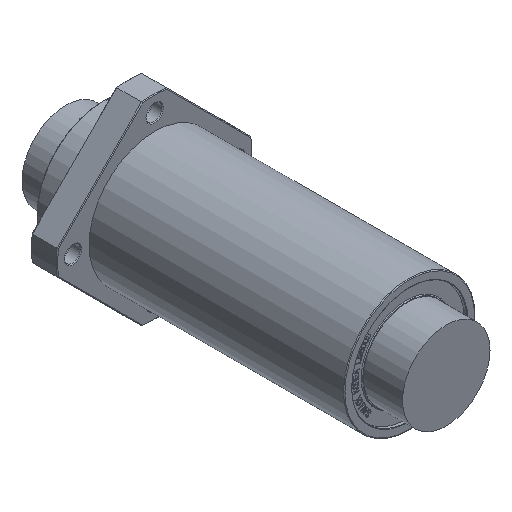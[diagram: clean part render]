
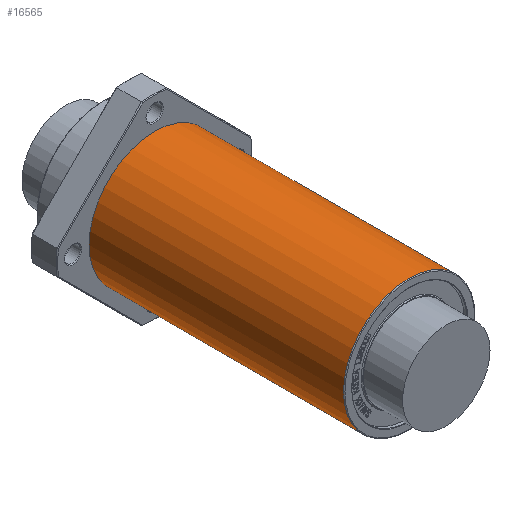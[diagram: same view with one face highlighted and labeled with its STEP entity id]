
A CAD part, isometric view. The second image highlights one B-rep face of the part: STEP entity #16565.
In plain terms, the highlighted cylindrical face has radius 45 mm (diameter 90 mm), a full revolution.
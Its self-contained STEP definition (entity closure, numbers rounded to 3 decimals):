
#2247=CYLINDRICAL_SURFACE('',#16937,45.);
#3415=FACE_OUTER_BOUND('',#4353,.T.);
#4353=EDGE_LOOP('',(#15631,#15632,#15633,#15634,#15635,#15636,#15637));
#5495=LINE('',#29887,#6631);
#6631=VECTOR('',#18785,45.);
#6657=CIRCLE('',#16620,45.);
#6658=CIRCLE('',#16621,45.);
#6713=CIRCLE('',#16938,45.);
#6714=CIRCLE('',#16939,45.);
#6715=CIRCLE('',#16940,45.);
#6755=VERTEX_POINT('',#18892);
#6756=VERTEX_POINT('',#18893);
#8342=VERTEX_POINT('',#29882);
#8343=VERTEX_POINT('',#29883);
#8344=VERTEX_POINT('',#29885);
#8386=EDGE_CURVE('',#6755,#6756,#6657,.T.);
#8387=EDGE_CURVE('',#6756,#6755,#6658,.T.);
#10779=EDGE_CURVE('',#8342,#8343,#6713,.T.);
#10780=EDGE_CURVE('',#8344,#8342,#6714,.T.);
#10781=EDGE_CURVE('',#8344,#6756,#5495,.T.);
#10782=EDGE_CURVE('',#8343,#8344,#6715,.T.);
#15631=ORIENTED_EDGE('',*,*,#10779,.F.);
#15632=ORIENTED_EDGE('',*,*,#10780,.F.);
#15633=ORIENTED_EDGE('',*,*,#10781,.T.);
#15634=ORIENTED_EDGE('',*,*,#8387,.T.);
#15635=ORIENTED_EDGE('',*,*,#8386,.T.);
#15636=ORIENTED_EDGE('',*,*,#10781,.F.);
#15637=ORIENTED_EDGE('',*,*,#10782,.F.);
#16565=ADVANCED_FACE('',(#3415),#2247,.T.);
#16620=AXIS2_PLACEMENT_3D('',#18894,#17024,#17025);
#16621=AXIS2_PLACEMENT_3D('',#18895,#17026,#17027);
#16937=AXIS2_PLACEMENT_3D('',#29881,#18779,#18780);
#16938=AXIS2_PLACEMENT_3D('',#29884,#18781,#18782);
#16939=AXIS2_PLACEMENT_3D('',#29886,#18783,#18784);
#16940=AXIS2_PLACEMENT_3D('',#29888,#18786,#18787);
#17024=DIRECTION('center_axis',(0.,-1.,0.));
#17025=DIRECTION('ref_axis',(1.,0.,0.));
#17026=DIRECTION('center_axis',(0.,-1.,0.));
#17027=DIRECTION('ref_axis',(1.,0.,0.));
#18779=DIRECTION('center_axis',(0.,-1.,0.));
#18780=DIRECTION('ref_axis',(1.,0.,0.));
#18781=DIRECTION('center_axis',(0.,-1.,0.));
#18782=DIRECTION('ref_axis',(1.,0.,0.));
#18783=DIRECTION('center_axis',(0.,-1.,0.));
#18784=DIRECTION('ref_axis',(1.,0.,0.));
#18785=DIRECTION('',(0.,1.,0.));
#18786=DIRECTION('center_axis',(0.,-1.,0.));
#18787=DIRECTION('ref_axis',(1.,0.,0.));
#18892=CARTESIAN_POINT('',(45.,69.5,0.));
#18893=CARTESIAN_POINT('',(-45.,69.5,0.));
#18894=CARTESIAN_POINT('Origin',(0.,69.5,0.));
#18895=CARTESIAN_POINT('Origin',(0.,69.5,0.));
#29881=CARTESIAN_POINT('Origin',(0.,0.,0.));
#29882=CARTESIAN_POINT('',(45.,-105.,0.));
#29883=CARTESIAN_POINT('',(0.,-105.,45.));
#29884=CARTESIAN_POINT('Origin',(0.,-105.,0.));
#29885=CARTESIAN_POINT('',(-45.,-105.,0.));
#29886=CARTESIAN_POINT('Origin',(0.,-105.,0.));
#29887=CARTESIAN_POINT('',(-45.,0.,0.));
#29888=CARTESIAN_POINT('Origin',(0.,-105.,0.));
